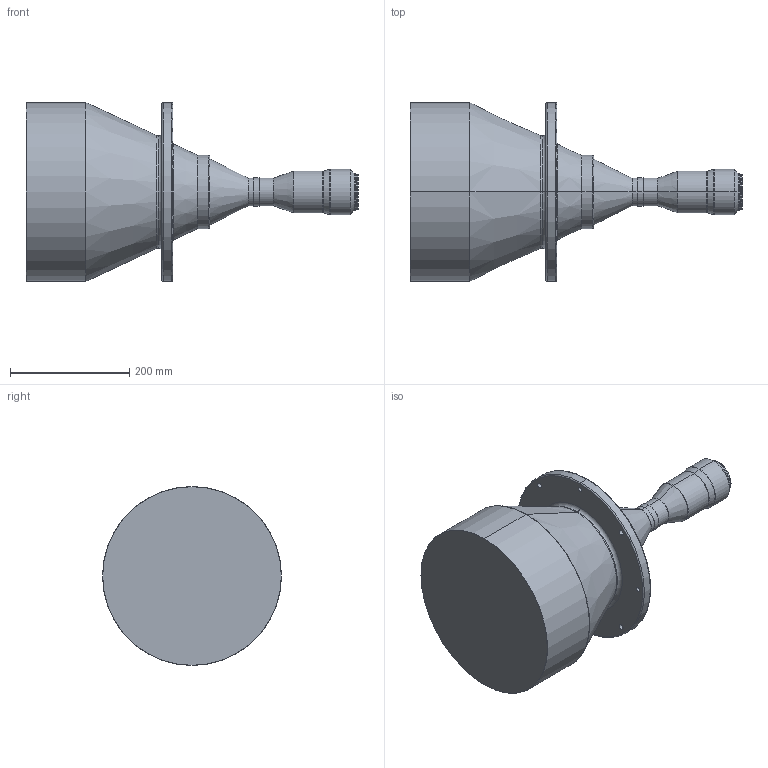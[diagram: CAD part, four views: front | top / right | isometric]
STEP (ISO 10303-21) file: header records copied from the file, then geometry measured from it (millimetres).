
FILE_DESCRIPTION (( 'STEP AP203' ), '1' );
FILE_NAME ('DTCM35FH-258-M58-AL.STEP', '2019-11-18T08:56:54', ( 'Windows 蚚誧' ), ( '' ), 'SwSTEP 2.0', 'SolidWorks 2017', '' );
FILE_SCHEMA (( 'CONFIG_CONTROL_DESIGN' ));
Length unit declared in the file: millimetre
Products named in the file (1): DTCM35FH-258-M58-AL
Bounding box: 556.2 x 300 x 300 mm (x, y, z)
Volume: 16100761.3 mm3; surface area: 469652.5 mm2
Topology: 1 solids, 1 shells, 89 faces, 192 edges, 112 vertices
Faces by surface type: cylinder 38, torus 24, cone 18, plane 9
Entity records: 2547 total; most frequent: DIRECTION 508, CARTESIAN_POINT 394, ORIENTED_EDGE 384, AXIS2_PLACEMENT_3D 226, EDGE_CURVE 192, CIRCLE 136, EDGE_LOOP 112, VERTEX_POINT 112
